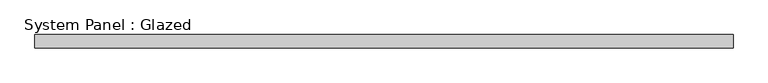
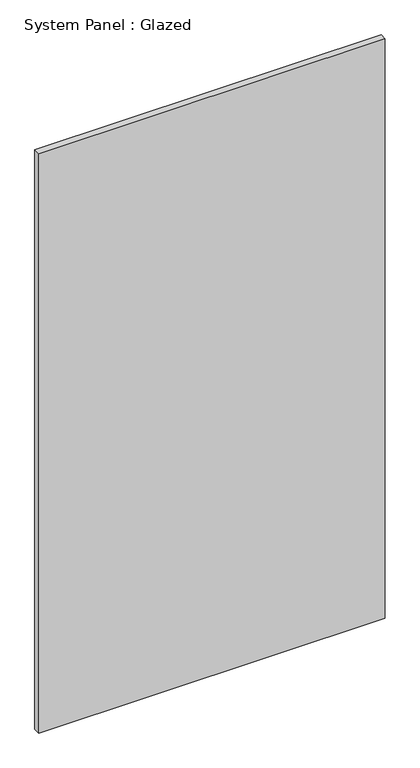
"""IFC4 building model written with IfcOpenShell, lengths in millimetres: plate geometry, System Panel : Glazed."""

from ifc_helpers import new_model, si_unit, origin, origin_with_axes, place, context, project, spatial, polyline, outline, extrude, source, transform, mapped, element, save


def system_panel_glazed_a3270abd(model_context):
    return source(origin(), model_context, "Body", "SweptSolid", [
        extrude(outline(polyline([(657.9166666, 24.5), (-657.9166666, 24.5), (-657.9166666, 49.5), (657.9166666, 49.5), (657.9166666, 24.5)])), origin_with_axes(), (0.0, 0.0, 1.0), 2325.0),
    ])


if __name__ == "__main__":
    model = new_model("IFC4")
    model_context = context("Model", 3, world=origin())
    ifc_project = project(units=[si_unit("LENGTHUNIT", "METRE", prefix="MILLI")], contexts=[model_context])
    site = spatial("IfcSite", under=ifc_project)
    building = spatial("IfcBuilding", under=site)
    placement = place(None, origin())
    system_panel_glazed_shape = system_panel_glazed_a3270abd(model_context)
    element("IfcPlate", 1, ObjectType="System Panel : Glazed", at=placement, inside=building, context=model_context, shape_type="MappedRepresentation", body=[
        mapped(system_panel_glazed_shape, transform((0.0, 0.0, 0.0), x_axis=(1.0, 0.0, 0.0), y_axis=(0.0, 1.0, 0.0), z_axis=(0.0, 0.0, 1.0))),
    ])
    save(model, "model.ifc")
